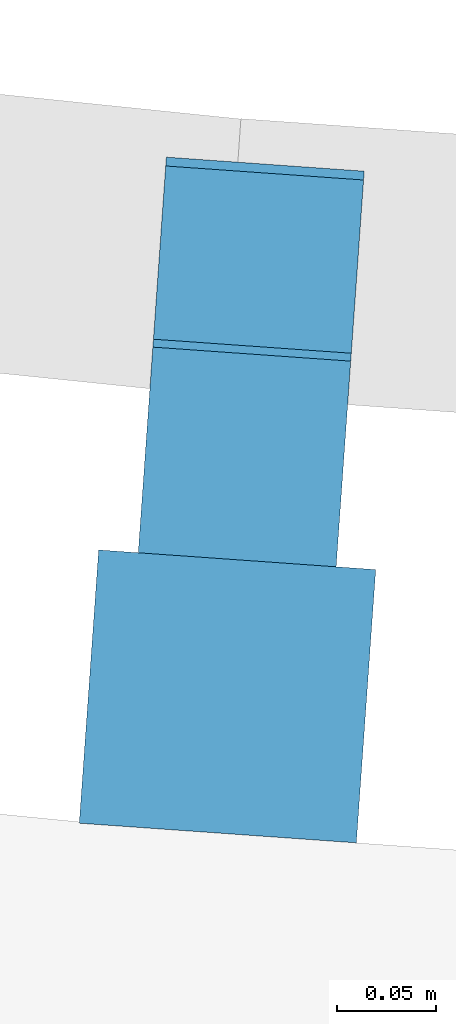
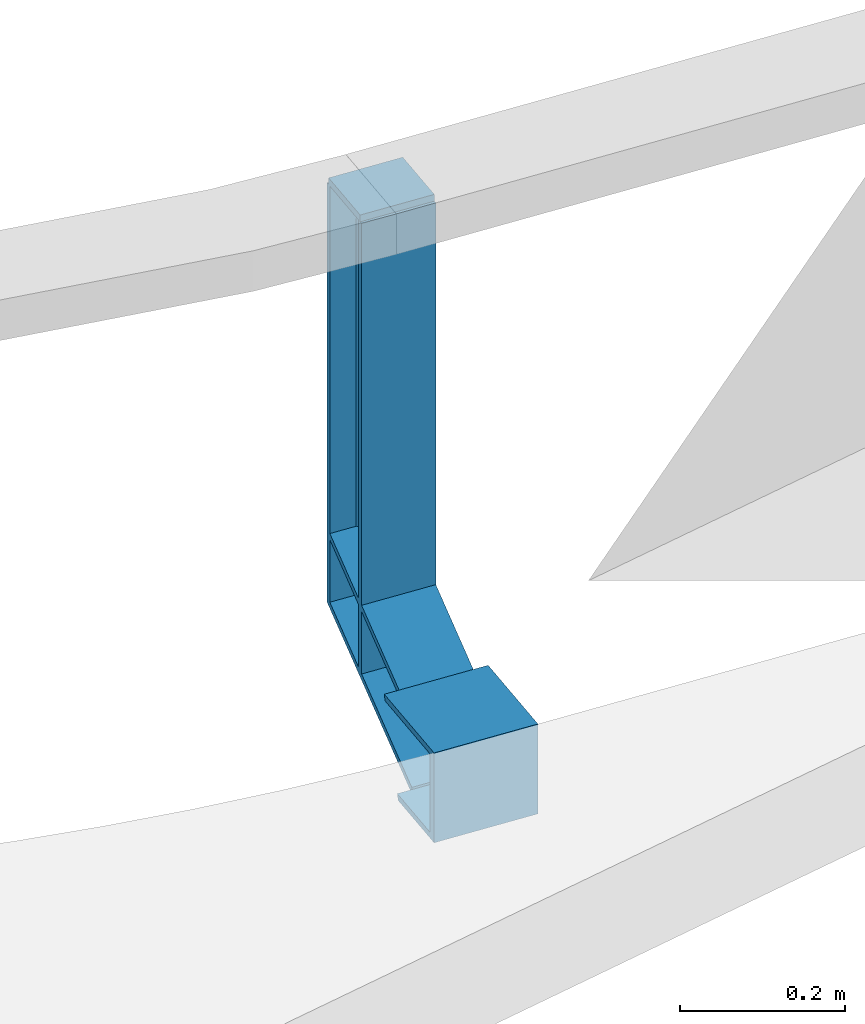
# One storey, part 33 of 68: 1 beam.
"""IFC2X3 building model written with IfcOpenShell, lengths in millimetres."""

from ifc_helpers import new_model, entity, si_unit, converted_unit, derived_unit, direction, frame, origin, place, context, subcontext, project, spatial, faceted_brep, source, transform, mapped, material, type_object, type_shapes, element, save


model = new_model("IFC2X3")

# Units and contexts
model_context = context("Model", 3, precision=0.01, world=origin(), true_north=direction((6.12303176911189e-17, 1.0)))
body_context = subcontext(model_context, "Body", "Model", "MODEL_VIEW")
ifc_project = project(units=[si_unit("LENGTHUNIT", "METRE", prefix="MILLI"), si_unit("AREAUNIT", "SQUARE_METRE", prefix="MILLI"), si_unit("VOLUMEUNIT", "CUBIC_METRE"), converted_unit("PLANEANGLEUNIT", "DEGREE", entity("IfcRatioMeasure", 0.0174532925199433), si_unit("PLANEANGLEUNIT", "RADIAN"), dimensions=[0, 0, 0, 0, 0, 0, 0]), si_unit("MASSUNIT", "GRAM", prefix="KILO"), derived_unit("MASSDENSITYUNIT", [(si_unit("MASSUNIT", "GRAM", prefix="KILO"), 1), (si_unit("LENGTHUNIT", "METRE"), -3)]), derived_unit("MOMENTOFINERTIAUNIT", [(si_unit("LENGTHUNIT", "METRE"), 4)]), si_unit("TIMEUNIT", "SECOND"), si_unit("FREQUENCYUNIT", "HERTZ"), si_unit("THERMODYNAMICTEMPERATUREUNIT", "DEGREE_CELSIUS"), derived_unit("THERMALTRANSMITTANCEUNIT", [(si_unit("MASSUNIT", "GRAM", prefix="KILO"), 1), (si_unit("THERMODYNAMICTEMPERATUREUNIT", "KELVIN"), -1), (si_unit("TIMEUNIT", "SECOND"), -3)]), derived_unit("VOLUMETRICFLOWRATEUNIT", [(si_unit("LENGTHUNIT", "METRE"), 3), (si_unit("TIMEUNIT", "SECOND"), -1)]), si_unit("ELECTRICCURRENTUNIT", "AMPERE"), si_unit("ELECTRICVOLTAGEUNIT", "VOLT"), si_unit("POWERUNIT", "WATT"), si_unit("FORCEUNIT", "NEWTON", prefix="KILO"), si_unit("ILLUMINANCEUNIT", "LUX"), si_unit("LUMINOUSFLUXUNIT", "LUMEN"), si_unit("LUMINOUSINTENSITYUNIT", "CANDELA"), derived_unit("USERDEFINED", [(si_unit("MASSUNIT", "GRAM", prefix="KILO"), -1), (si_unit("LENGTHUNIT", "METRE"), -2), (si_unit("TIMEUNIT", "SECOND"), 3), (si_unit("LUMINOUSFLUXUNIT", "LUMEN"), 1)]), derived_unit("LINEARVELOCITYUNIT", [(si_unit("LENGTHUNIT", "METRE"), 1), (si_unit("TIMEUNIT", "SECOND"), -1)]), si_unit("PRESSUREUNIT", "PASCAL"), derived_unit("USERDEFINED", [(si_unit("LENGTHUNIT", "METRE"), -2), (si_unit("MASSUNIT", "GRAM", prefix="KILO"), 1), (si_unit("TIMEUNIT", "SECOND"), -2)]), derived_unit("LINEARFORCEUNIT", [(si_unit("MASSUNIT", "GRAM", prefix="KILO"), 1), (si_unit("LENGTHUNIT", "METRE"), 1), (si_unit("TIMEUNIT", "SECOND"), -2), (si_unit("LENGTHUNIT", "METRE"), -1)]), derived_unit("PLANARFORCEUNIT", [(si_unit("MASSUNIT", "GRAM", prefix="KILO"), 1), (si_unit("LENGTHUNIT", "METRE"), 1), (si_unit("TIMEUNIT", "SECOND"), -2), (si_unit("LENGTHUNIT", "METRE"), -2)])], contexts=[model_context])

# Site, building, storey
site_placement = place(None, origin())
site = spatial("IfcSite", under=ifc_project, at=site_placement, Name="Theater aan de Parade", CompositionType="ELEMENT")
building_placement = place(site_placement, origin())
building = spatial("IfcBuilding", under=site, at=building_placement, Name="Theater aan de Parade", CompositionType="ELEMENT")
storey_placement = place(building_placement, frame((0.0, 0.0, 8750.0)))
storey = spatial("IfcBuildingStorey", under=building, at=storey_placement, Name="02 tweede verdieping", CompositionType="ELEMENT", Elevation=8750.0)

# Beam
ifc_material = material(Name="00_PBT_MAT_staal_S355")
beam_type = type_object("IfcBeamType", Name="28_PBT_SF_staal_baluster balkon:baluster HEA100", PredefinedType="BEAM", material=ifc_material)
shared_shape = source(origin(), body_context, "Body", "Brep", [
    faceted_brep([(50.0, 43.537813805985, 625.0), (50.0, 43.537813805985, 635.0), (50.0, -44.0, 635.0), (50.0, -44.0, 625.0), (-50.0, 43.537813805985, 625.0), (-50.0, -44.0, 625.0), (-50.0, -44.0, 635.0), (-50.0, 43.537813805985, 635.0)], [[[0, 1, 2, 3]], [[4, 5, 6, 7]], [[3, 5, 4, 0]], [[2, 6, 5, 3]], [[1, 7, 6, 2]], [[0, 4, 7, 1]]]),
    faceted_brep([(70.0, -278.0, -133.0), (70.0, -278.0, 0.0), (70.0, -290.0, 0.0), (70.0, -290.0, -133.0), (-70.0, -278.0, -133.0), (-70.0, -290.0, -133.0), (-70.0, -290.0, 0.0), (-70.0, -278.0, 0.0)], [[[0, 1, 2, 3]], [[4, 5, 6, 7]], [[3, 5, 4, 0]], [[2, 6, 5, 3]], [[1, 7, 6, 2]], [[0, 4, 7, 1]]]),
    faceted_brep([(70.0, -278.0, -133.0), (70.0, -278.0, -124.5), (14.7499999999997, -278.0, -124.5), (11.6441714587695, -278.0, -124.091109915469), (8.74999999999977, -278.0, -122.892304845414), (6.26471862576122, -278.0, -120.985281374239), (4.35769515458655, -278.0, -118.5), (3.15889008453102, -278.0, -115.60582854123), (2.74999999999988, -278.0, -112.5), (2.74999999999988, -278.0, -20.5000000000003), (3.15889008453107, -278.0, -17.39417145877), (4.35769515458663, -278.0, -14.5000000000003), (6.26471862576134, -278.0, -12.0147186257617), (8.74999999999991, -278.0, -10.107695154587), (11.6441714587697, -278.0, -8.90889008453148), (14.7499999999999, -278.0, -8.50000000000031), (70.0, -278.0, -8.50000000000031), (70.0, -278.0, 0.0), (-70.0, -278.0, 0.0), (-70.0, -278.0, -8.50000000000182), (-14.7499999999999, -278.0, -8.50000000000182), (-11.6441714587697, -278.0, -8.90889008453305), (-8.74999999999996, -278.0, -10.1076951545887), (-6.26471862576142, -278.0, -12.0147186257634), (-4.35769515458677, -278.0, -14.500000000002), (-3.15889008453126, -278.0, -17.3941714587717), (-2.75000000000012, -278.0, -20.5000000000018), (-2.75000000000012, -278.0, -112.500000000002), (-3.15889008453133, -278.0, -115.605828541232), (-4.3576951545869, -278.0, -118.500000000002), (-6.26471862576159, -278.0, -120.98528137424), (-8.75000000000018, -278.0, -122.892304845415), (-11.6441714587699, -278.0, -124.091109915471), (-14.7500000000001, -278.0, -124.500000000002), (-70.0, -278.0, -124.500000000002), (-70.0, -278.0, -133.0), (70.0, -154.37480362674, -8.50000000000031), (70.0, -151.923048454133, 0.0), (70.0, -190.285805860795, -133.0), (70.0, -187.834050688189, -124.5), (14.7499999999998, -214.852904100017, -8.50000000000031), (14.7499999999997, -154.37480362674, -8.50000000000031), (-70.0, -154.37480362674, -8.50000000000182), (-14.7500000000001, -154.37480362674, -8.50000000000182), (-14.7500000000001, -214.852905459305, -8.50000000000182), (6.43965673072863, -216.327371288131, -11.8433150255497), (2.74999999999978, -217.521904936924, -20.5000000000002), (12.079748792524, -154.461585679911, -8.8008650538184), (9.5433951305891, -154.717580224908, -9.68837358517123), (5.36802221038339, -155.678018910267, -13.0181223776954), (7.26812237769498, -155.129950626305, -11.1180222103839), (2.74999999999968, -157.83610504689, -20.5000000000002), (3.05086505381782, -157.065893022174, -17.8297487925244), (3.9383735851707, -156.334302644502, -15.2933951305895), (2.74999999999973, -184.372749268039, -112.5), (3.93837358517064, -185.874551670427, -117.706604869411), (3.05086505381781, -185.142961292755, -115.170251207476), (5.36802221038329, -186.530835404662, -119.981877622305), (7.26812237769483, -187.078903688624, -121.881977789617), (9.54339513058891, -187.491274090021, -123.311626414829), (12.0797487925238, -187.747268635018, -124.199134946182), (14.7499999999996, -187.834050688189, -124.5), (-14.7500000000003, -187.83405068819, -124.500000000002), (-70.0, -187.83405068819, -124.500000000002), (-70.0, -190.285805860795, -133.0), (-70.0, -151.923048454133, 0.0), (-9.54339513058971, -187.491274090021, -123.311626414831), (-12.0797487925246, -187.747268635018, -124.199134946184), (-7.2681223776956, -187.078903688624, -121.881977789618), (-5.36802221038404, -186.530835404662, -119.981877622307), (-3.93837358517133, -185.874551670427, -117.706604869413), (-3.05086505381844, -185.142961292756, -115.170251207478), (-2.75000000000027, -184.37274926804, -112.500000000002), (-2.75000000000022, -217.521899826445, -20.500000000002), (-2.75000000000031, -157.83610504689, -20.500000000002), (-6.43965718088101, -216.327373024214, -11.8433145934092), (-3.05086505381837, -157.065893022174, -17.8297487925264), (-3.93837358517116, -156.334302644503, -15.2933951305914), (-7.2681223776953, -155.129950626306, -11.1180222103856), (-5.36802221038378, -155.678018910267, -13.0181223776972), (-12.0797487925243, -154.461585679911, -8.80086505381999), (-9.54339513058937, -154.717580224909, -9.68837358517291)], [[[0, 1, 2, 3, 4, 5, 6, 7, 8, 9, 10, 11, 12, 13, 14, 15, 16, 17, 18, 19, 20, 21, 22, 23, 24, 25, 26, 27, 28, 29, 30, 31, 32, 33, 34, 35]], [[36, 37, 17, 16]], [[38, 39, 1, 0]], [[36, 16, 15, 40, 41]], [[19, 42, 43, 44, 20]], [[13, 45, 14]], [[12, 45, 13]], [[46, 45, 11]], [[47, 41, 40]], [[14, 40, 15]], [[45, 12, 11]], [[48, 47, 40]], [[49, 50, 45]], [[10, 9, 46]], [[40, 45, 48]], [[11, 10, 46]], [[46, 51, 52]], [[53, 46, 52]], [[46, 53, 45]], [[45, 53, 49]], [[45, 50, 48]], [[14, 45, 40]], [[54, 51, 46, 9, 8]], [[7, 6, 55]], [[8, 7, 56]], [[56, 54, 8]], [[57, 55, 6]], [[56, 7, 55]], [[6, 5, 57]], [[58, 5, 4]], [[59, 4, 3]], [[60, 3, 2]], [[59, 58, 4]], [[61, 60, 2]], [[59, 3, 60]], [[5, 58, 57]], [[39, 61, 2, 1]], [[62, 63, 34, 33]], [[38, 0, 35, 64]], [[64, 35, 34, 63]], [[42, 19, 18, 65]], [[32, 31, 66]], [[33, 32, 67]], [[67, 62, 33]], [[68, 66, 31]], [[67, 32, 66]], [[31, 30, 68]], [[69, 30, 29]], [[70, 29, 28]], [[71, 28, 27]], [[70, 69, 29]], [[72, 71, 27]], [[70, 28, 71]], [[30, 69, 68]], [[72, 27, 26, 73, 74]], [[25, 24, 73]], [[24, 23, 75]], [[75, 22, 21]], [[76, 74, 73]], [[75, 23, 22]], [[73, 77, 76]], [[78, 79, 75]], [[44, 80, 81]], [[73, 75, 77]], [[25, 73, 26]], [[21, 44, 75]], [[21, 20, 44]], [[43, 80, 44]], [[44, 81, 75]], [[78, 75, 81]], [[75, 79, 77]], [[73, 24, 75]], [[37, 65, 18, 17]], [[39, 38, 64, 63, 62, 67, 66, 68, 69, 70, 71, 72, 74, 76, 77, 79, 78, 81, 80, 43, 42, 65, 37, 36, 41, 47, 48, 50, 49, 53, 52, 51, 54, 56, 55, 57, 58, 59, 60, 61]]]),
    faceted_brep([(50.0, 48.0, 106.188021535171), (50.0, 48.0, 115.425625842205), (50.0, -151.923048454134, 0.0), (50.0, -155.119944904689, -11.0833333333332), (50.0, 48.0, 4.57437415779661), (50.0, 48.0, 13.8119784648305), (50.0, -187.08890941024, -121.916666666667), (50.0, -190.285805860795, -133.0), (14.4999999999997, -155.119944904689, -11.0833333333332), (14.4999999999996, -56.7511342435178, 45.7099259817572), (14.4999999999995, -4.37557443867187, 75.9489695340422), (14.4999999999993, 48.0, 106.188021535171), (-50.0, -155.119944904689, -11.0833333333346), (-50.0, 48.0, 106.188021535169), (-14.5000000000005, 48.0, 106.188021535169), (-14.5000000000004, -4.37556718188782, 75.9489737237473), (-14.5000000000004, -56.7511343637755, 45.7099259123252), (-14.5000000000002, -155.119944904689, -11.0833333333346), (9.9077988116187, -155.484968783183, -12.348836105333), (6.13940978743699, -85.6560198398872, 25.1051305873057), (12.1589161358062, -155.212086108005, -11.4027780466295), (2.49999999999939, -4.37556820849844, 62.0925666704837), (2.49999999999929, 48.0, 92.3316150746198), (2.80086505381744, 48.0, 95.4149555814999), (6.04197655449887, -10.2229142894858, 68.5459327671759), (2.49999999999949, -55.1641531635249, 32.769763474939), (2.73057663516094, -158.979764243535, -24.4649567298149), (2.49999999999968, -159.915289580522, -27.7083333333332), (2.49999999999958, -107.539721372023, 2.53071507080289), (7.83315720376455, -155.92810620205, -13.8851510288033), (11.8297487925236, 48.0, 105.840612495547), (4.52236465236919, -157.25113882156, -18.4719782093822), (3.41344560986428, -158.0801906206, -21.3462212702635), (5.11802221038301, 48.0, 100.970943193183), (7.01812237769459, 48.0, 103.164989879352), (3.68837358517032, 48.0, 98.3436845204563), (9.29339513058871, 48.0, 104.815805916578), (6.01471862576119, -156.524468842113, -15.9526830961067), (2.49999999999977, -182.293564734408, -105.291666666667), (2.49999999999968, -129.917998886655, -75.052619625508), (2.49999999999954, -56.7511354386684, -32.8097113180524), (2.49999999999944, -4.3755695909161, -2.57066427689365), (2.49999999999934, 48.0, 27.6683849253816), (6.01471862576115, -185.684385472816, -117.047316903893), (6.30956465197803, -103.743785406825, -70.0679088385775), (4.52236465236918, -184.957715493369, -114.528021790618), (7.83315720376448, -186.280748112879, -119.114848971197), (9.90779881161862, -186.723885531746, -120.651163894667), (14.4999999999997, -134.713341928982, -91.677618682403), (12.1589161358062, -186.996768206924, -121.597221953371), (14.4999999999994, -4.37556748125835, -16.4270695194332), (5.87838992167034, -26.389988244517, -24.9186641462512), (14.4999999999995, -69.5444547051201, -54.0523441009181), (5.11802221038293, 48.0, 19.0290568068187), (3.4134456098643, -184.128663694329, -111.653778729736), (2.80086505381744, 48.0, 24.5850444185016), (3.68837358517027, 48.0, 21.6563154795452), (14.4999999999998, -187.08890941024, -121.916666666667), (7.01812237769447, 48.0, 16.8350101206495), (9.29339513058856, 48.0, 15.1841940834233), (2.73057663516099, -183.229090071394, -108.535043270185), (11.8297487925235, 48.0, 14.1593875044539), (14.4999999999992, 48.0, 13.8119784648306), (-50.0, -187.088909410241, -121.916666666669), (-14.5000000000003, -187.088909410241, -121.916666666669), (-14.5000000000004, -134.713341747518, -91.6776185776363), (-14.5000000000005, -69.544456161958, -54.0523449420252), (-14.5000000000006, -4.37556766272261, -16.427069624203), (-14.5000000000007, 48.0, 13.8119784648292), (-50.0, 48.0, 13.8119784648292), (-50.0, -190.285805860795, -133.0), (-50.0, 48.0, 4.57437415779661), (-50.0, -151.923048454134, 0.0), (-50.0, 48.0, 115.425625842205), (-6.30956482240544, -103.743788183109, -70.0679106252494), (-4.52236465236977, -184.95771549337, -114.52802179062), (-3.41344560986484, -184.128663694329, -111.653778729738), (-2.50000000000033, -129.917995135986, -75.0526174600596), (-5.87838988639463, -26.3899865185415, -24.9186631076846), (-7.01812237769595, 48.0, 16.835010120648), (-9.29339513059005, 48.0, 15.1841940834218), (-6.01471862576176, -185.684385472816, -117.047316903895), (-7.8331572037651, -186.28074811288, -119.114848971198), (-11.829748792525, 48.0, 14.1593875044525), (-2.50000000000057, -4.37556959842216, -2.57066428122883), (-5.11802221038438, 48.0, 19.0290568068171), (-2.7305766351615, -183.229090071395, -108.535043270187), (-2.50000000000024, -182.293564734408, -105.291666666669), (-9.90779881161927, -186.723885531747, -120.651163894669), (-12.1589161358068, -186.996768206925, -121.597221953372), (-2.50000000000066, 48.0, 27.6683849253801), (-2.80086505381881, 48.0, 24.5850444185), (-2.50000000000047, -56.7511295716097, -32.809707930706), (-3.68837358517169, 48.0, 21.6563154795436), (-2.50000000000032, -159.915289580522, -27.708333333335), (-2.50000000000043, -107.539724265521, 2.53071340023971), (-2.50000000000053, -55.1641511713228, 32.7697646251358), (-2.50000000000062, -4.37556531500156, 62.0925683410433), (-2.50000000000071, 48.0, 92.3316150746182), (-2.73057663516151, -158.979764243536, -24.464956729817), (-11.8297487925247, 48.0, 105.840612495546), (-7.83315720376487, -155.92810620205, -13.885151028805), (-6.13940988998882, -85.6560228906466, 25.1051289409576), (-6.01471862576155, -156.524468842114, -15.9526830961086), (-6.04197656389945, -10.2229155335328, 68.5459320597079), (-7.0181223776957, 48.0, 103.16498987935), (-5.11802221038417, 48.0, 100.970943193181), (-9.90779881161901, -155.484968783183, -12.3488361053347), (-4.52236465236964, -157.25113882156, -18.4719782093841), (-3.68837358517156, 48.0, 98.3436845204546), (-2.80086505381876, 48.0, 95.4149555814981), (-12.1589161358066, -155.212086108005, -11.402778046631), (-3.41344560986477, -158.080190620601, -21.3462212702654), (-9.29339513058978, 48.0, 104.815805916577)], [[[0, 1, 2, 3]], [[4, 5, 6, 7]], [[0, 3, 8, 9, 10, 11]], [[12, 13, 14, 15, 16, 17]], [[18, 19, 20]], [[21, 22, 23]], [[24, 25, 21]], [[26, 27, 28]], [[19, 18, 29]], [[25, 19, 28]], [[9, 24, 10]], [[20, 9, 8]], [[19, 9, 20]], [[19, 24, 9]], [[25, 24, 19]], [[30, 11, 10]], [[28, 31, 32]], [[24, 33, 34]], [[33, 24, 35]], [[35, 24, 21]], [[36, 24, 34]], [[28, 32, 26]], [[31, 19, 37]], [[30, 10, 36]], [[31, 28, 19]], [[35, 21, 23]], [[36, 10, 24]], [[37, 19, 29]], [[27, 38, 39, 40, 41, 42, 22, 21, 25, 28]], [[43, 44, 45]], [[46, 47, 48]], [[48, 47, 49]], [[50, 51, 52]], [[53, 41, 51]], [[54, 45, 44]], [[55, 42, 41]], [[55, 41, 56]], [[49, 57, 48]], [[40, 39, 44]], [[58, 53, 51]], [[43, 46, 44]], [[51, 59, 58]], [[39, 54, 44]], [[54, 39, 60]], [[40, 44, 51]], [[61, 50, 62]], [[41, 40, 51]], [[44, 48, 52]], [[44, 46, 48]], [[56, 41, 53]], [[39, 38, 60]], [[59, 50, 61]], [[51, 44, 52]], [[51, 50, 59]], [[5, 62, 50, 52, 48, 57, 6]], [[63, 64, 65, 66, 67, 68, 69]], [[4, 7, 70, 71]], [[71, 70, 63, 69]], [[13, 12, 72, 73]], [[66, 65, 74]], [[75, 76, 74]], [[77, 74, 76]], [[78, 79, 80]], [[81, 74, 82]], [[83, 67, 80]], [[78, 84, 85]], [[86, 87, 77]], [[88, 82, 65]], [[88, 65, 89]], [[84, 90, 91]], [[66, 74, 78]], [[78, 80, 67]], [[92, 78, 74]], [[83, 68, 67]], [[84, 78, 92]], [[93, 84, 91]], [[93, 85, 84]], [[74, 65, 82]], [[78, 85, 79]], [[64, 89, 65]], [[74, 81, 75]], [[74, 77, 92]], [[86, 77, 76]], [[66, 78, 67]], [[94, 95, 96, 97, 98, 90, 84, 92, 77, 87]], [[94, 99, 95]], [[15, 14, 100]], [[101, 102, 103]], [[104, 105, 106]], [[107, 102, 101]], [[103, 102, 108]], [[16, 104, 102]], [[104, 96, 102]], [[102, 95, 108]], [[109, 110, 97]], [[107, 111, 102]], [[96, 104, 97]], [[109, 104, 106]], [[112, 95, 99]], [[16, 15, 104]], [[95, 112, 108]], [[113, 15, 100]], [[16, 102, 111]], [[97, 104, 109]], [[102, 96, 95]], [[113, 104, 15]], [[111, 17, 16]], [[105, 104, 113]], [[110, 98, 97]], [[1, 73, 72, 2]], [[5, 4, 71, 69, 68, 83, 80, 79, 85, 93, 91, 90, 98, 110, 109, 106, 105, 113, 100, 14, 13, 73, 1, 0, 11, 30, 36, 34, 33, 35, 23, 22, 42, 55, 56, 53, 58, 59, 61, 62]], [[3, 2, 72, 12, 17, 111, 107, 101, 103, 108, 112, 99, 94, 87, 86, 76, 75, 81, 82, 88, 89, 64, 63, 70, 7, 6, 57, 49, 47, 46, 43, 45, 54, 60, 38, 27, 26, 32, 31, 37, 29, 18, 20, 8]]]),
    faceted_brep([(50.0, -48.0, 625.0), (50.0, -40.0, 625.0), (14.4999999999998, -40.0, 625.0), (11.3941714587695, -39.5911099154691, 625.0), (8.4999999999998, -38.3923048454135, 625.0), (6.01471862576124, -36.4852813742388, 625.0), (4.10769515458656, -34.0, 625.0), (2.90889008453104, -31.1058285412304, 625.0), (2.49999999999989, -28.0, 625.0), (2.49999999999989, 28.0, 625.0), (2.90889008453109, 31.10582854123, 625.0), (4.10769515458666, 34.0, 625.0), (6.01471862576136, 36.4852813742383, 625.0), (8.49999999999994, 38.392304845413, 625.0), (11.3941714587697, 39.5911099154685, 625.0), (14.4999999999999, 40.0, 625.0), (50.0, 40.0, 625.0), (50.0, 48.0, 625.0), (-50.0, 48.0, 625.0), (-50.0, 40.0, 625.0), (-14.4999999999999, 40.0, 625.0), (-11.3941714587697, 39.5911099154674, 625.0), (-8.49999999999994, 38.3923048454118, 625.0), (-6.01471862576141, 36.4852813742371, 625.0), (-4.10769515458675, 34.0, 625.0), (-2.90889008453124, 31.1058285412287, 625.0), (-2.50000000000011, 28.0, 625.0), (-2.5000000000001, -28.0, 625.0), (-2.90889008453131, -31.1058285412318, 625.0), (-4.10769515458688, -34.0, 625.0), (-6.01471862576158, -36.4852813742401, 625.0), (-8.50000000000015, -38.3923048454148, 625.0), (-11.3941714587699, -39.5911099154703, 625.0), (-14.5000000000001, -40.0, 625.0), (-50.0, -40.0, 625.0), (-50.0, -48.0, 625.0), (50.0, 48.0, 165.0), (50.0, 40.0, -0.0444279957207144), (50.0, 48.0, 4.57437415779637), (50.0, -40.0, -46.2324495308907), (50.0, -48.0, -50.8512516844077), (14.4999999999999, 40.0, 564.521909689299), (14.4999999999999, 40.0, 468.738898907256), (14.4999999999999, 40.0, 390.608336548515), (14.4999999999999, 40.0, 312.477797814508), (14.4999999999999, 40.0, 234.347235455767), (14.4999999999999, 40.0, 156.216673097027), (14.4999999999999, 40.0, 60.4336623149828), (14.4999999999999, 40.0, -0.0444279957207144), (-50.0, 40.0, -0.0444279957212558), (-14.4999999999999, 40.0, -0.0444279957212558), (-14.4999999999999, 40.0, 60.4336769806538), (-14.4999999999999, 40.0, 156.21667900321), (-14.5, 40.0, 234.34724221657), (-14.5, 40.0, 312.477786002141), (-14.5, 40.0, 390.608329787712), (-14.5, 40.0, 468.738893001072), (-14.5, 40.0, 564.521895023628), (6.01471822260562, 36.4852809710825, 534.282851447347), (2.49999999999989, 28.0, 504.043808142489), (2.49999999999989, 28.0, 429.969876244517), (6.38111782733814, 36.8365011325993, 422.595542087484), (9.29339513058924, 38.8116264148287, -0.730535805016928), (5.87838991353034, 36.3467262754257, 83.7445110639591), (7.01812237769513, 37.3819777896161, -1.55594382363), (2.49999999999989, 28.0, 564.521899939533), (5.11802221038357, 35.4818776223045, -2.65296716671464), (11.8297487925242, 39.6991349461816, -0.21813251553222), (6.03175640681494, 36.5022850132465, 273.412504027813), (5.33717277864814, 35.7487158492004, 157.721305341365), (2.49999999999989, 28.0, 113.983560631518), (2.49999999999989, 28.0, 53.5054688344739), (2.49999999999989, 28.0, -6.97263122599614), (2.80086505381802, 30.6702512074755, -5.43096097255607), (6.45584074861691, 36.9045775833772, 351.543056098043), (3.68837358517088, 33.2066048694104, -3.96659650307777), (2.49999999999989, 28.0, 234.939752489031), (2.49999999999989, 28.0, 174.461652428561), (2.49999999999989, 28.0, 332.454810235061), (2.49999999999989, -28.0, 564.521918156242), (2.49999999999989, -28.0, 504.043820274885), (2.49999999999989, -28.0, 443.565722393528), (2.49999999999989, -28.0, 383.08762451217), (2.49999999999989, -28.0, 277.489656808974), (2.49999999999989, -28.0, 171.891689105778), (2.49999999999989, -28.0, 81.6519494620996), (2.49999999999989, -28.0, 21.1738515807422), (2.49999999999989, -28.0, -39.3042463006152), (14.4999999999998, -40.0, 564.521903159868), (14.4999999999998, -40.0, 457.191883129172), (6.01471890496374, -36.4852816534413, 534.282850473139), (14.4999999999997, -40.0, 14.24565628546), (5.87838987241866, -36.3467262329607, 51.4128968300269), (14.4999999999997, -40.0, 74.723753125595), (14.4999999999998, -40.0, 182.053764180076), (7.12980766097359, -37.469966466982, 128.3887480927), (14.4999999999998, -40.0, 373.287829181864), (14.4999999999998, -40.0, 289.383775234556), (5.68142979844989, -36.138354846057, 331.33579860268), (6.48410362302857, -36.9300282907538, 264.631830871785), (5.11802221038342, -35.481877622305, -43.6239103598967), (3.68837358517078, -33.2066048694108, -42.3102810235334), (14.4999999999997, -40.0, -46.2324495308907), (11.8297487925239, -39.6991349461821, -46.058745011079), (9.29339513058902, -38.8116264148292, -45.5463417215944), (7.01812237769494, -37.3819777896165, -44.7209337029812), (5.85986411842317, -36.3275477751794, 197.731198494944), (5.34384824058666, -35.7566026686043, 460.437179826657), (2.80086505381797, -30.6702512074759, -40.8459165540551), (6.59968170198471, -37.0324399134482, 396.193688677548), (-50.0, -40.0, -46.2324495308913), (-14.5000000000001, -40.0, 564.521911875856), (-14.5000000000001, -40.0, 457.191887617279), (-14.5000000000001, -40.0, 373.287826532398), (-14.5000000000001, -40.0, 289.383775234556), (-14.5000000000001, -40.0, 205.479723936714), (-14.5000000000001, -40.0, 121.575662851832), (-14.5000000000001, -40.0, 14.2456483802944), (-14.5000000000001, -40.0, -46.2324495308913), (-50.0, -48.0, -50.8512516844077), (-50.0, 48.0, 165.0), (-50.0, 48.0, 4.57437415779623), (-6.01471845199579, -36.4852812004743, 534.282853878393), (-2.5000000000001, -28.0, 504.043796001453), (-5.34384807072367, -35.7566024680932, 460.437182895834), (-2.5000000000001, -28.0, 564.521907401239), (-9.29339513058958, -38.8116264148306, -45.5463417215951), (-7.01812237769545, -37.3819777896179, -44.720933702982), (-6.37223200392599, -36.8283286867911, 262.824412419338), (-5.68142973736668, -36.1383547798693, 331.33579885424), (-6.59968165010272, -37.0324398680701, 396.193689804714), (-2.5000000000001, -28.0, 383.087610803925), (-11.8297487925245, -39.6991349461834, -46.0587450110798), (-5.11802221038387, -35.4818776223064, -43.6239103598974), (-6.18948395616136, -36.6565191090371, 51.4128959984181), (-3.68837358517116, -33.2066048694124, -42.3102810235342), (-2.5000000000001, -28.0, 21.1738462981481), (-2.80086505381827, -30.6702512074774, -40.8459165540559), (-5.35181665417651, -35.7659990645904, 125.002033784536), (-2.5000000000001, -28.0, 81.6519388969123), (-2.5000000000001, -28.0, -39.304246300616), (-2.5000000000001, -28.0, 277.489641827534), (-2.5000000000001, -28.0, 443.565703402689), (-2.5000000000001, -28.0, 171.891672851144), (-5.88018165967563, -36.3485766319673, 194.135386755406), (-2.50000000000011, 28.0, 564.521898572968), (-2.50000000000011, 28.0, 504.043797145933), (-2.50000000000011, 28.0, 429.969878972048), (-2.50000000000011, 28.0, 332.454826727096), (-2.50000000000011, 28.0, 234.939757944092), (-2.50000000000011, 28.0, 174.461656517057), (-2.50000000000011, 28.0, 113.983555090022), (-2.50000000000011, 28.0, 53.5054536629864), (-2.50000000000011, 28.0, -6.97263122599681), (-5.87838991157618, 36.3467262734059, 83.7445122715), (-9.29339513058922, 38.8116264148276, -0.730535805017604), (-5.33717271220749, 35.7487157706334, 157.721307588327), (-6.01471873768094, 36.4852814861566, 534.282853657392), (-6.38111797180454, 36.8365012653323, 422.595548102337), (-6.45584072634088, 36.9045775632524, 351.543059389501), (-3.688373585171, 33.2066048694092, -3.96659650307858), (-2.80086505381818, 30.6702512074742, -5.43096097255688), (-7.01812237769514, 37.3819777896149, -1.55594382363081), (-5.11802221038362, 35.4818776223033, -2.65296716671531), (-6.03175635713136, 36.5022849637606, 273.412506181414), (-11.8297487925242, 39.6991349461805, -0.218132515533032)], [[[0, 1, 2, 3, 4, 5, 6, 7, 8, 9, 10, 11, 12, 13, 14, 15, 16, 17, 18, 19, 20, 21, 22, 23, 24, 25, 26, 27, 28, 29, 30, 31, 32, 33, 34, 35]], [[36, 17, 16, 37, 38]], [[39, 1, 0, 40]], [[37, 16, 15, 41, 42, 43, 44, 45, 46, 47, 48]], [[19, 49, 50, 51, 52, 53, 54, 55, 56, 57, 20]], [[13, 12, 58]], [[11, 58, 12]], [[58, 42, 41]], [[59, 60, 61]], [[62, 63, 64]], [[65, 11, 10]], [[66, 64, 63]], [[67, 48, 47]], [[45, 68, 69]], [[69, 70, 63]], [[65, 59, 58]], [[46, 63, 47]], [[63, 46, 69]], [[67, 47, 62]], [[41, 15, 14]], [[71, 72, 73]], [[58, 41, 13]], [[44, 74, 68]], [[43, 74, 44]], [[58, 11, 65]], [[13, 41, 14]], [[75, 71, 73]], [[47, 63, 62]], [[71, 63, 70]], [[75, 66, 71]], [[59, 61, 58]], [[63, 71, 66]], [[10, 9, 65]], [[44, 68, 45]], [[69, 76, 77, 70]], [[69, 46, 45]], [[68, 78, 76]], [[74, 60, 78]], [[69, 68, 76]], [[74, 43, 61]], [[60, 74, 61]], [[68, 74, 78]], [[43, 42, 61]], [[58, 61, 42]], [[8, 79, 80, 81, 82, 83, 84, 85, 86, 87, 72, 71, 70, 77, 76, 78, 60, 59, 65, 9]], [[3, 88, 4]], [[88, 89, 90]], [[91, 92, 93]], [[4, 90, 5]], [[92, 86, 85]], [[94, 93, 95]], [[5, 90, 6]], [[96, 97, 98]], [[99, 98, 97]], [[92, 100, 101]], [[90, 80, 79]], [[6, 79, 7]], [[86, 92, 101]], [[91, 102, 103]], [[104, 91, 103]], [[90, 79, 6]], [[92, 105, 100]], [[104, 105, 91]], [[99, 94, 106]], [[90, 4, 88]], [[80, 90, 107]], [[3, 2, 88]], [[101, 108, 86]], [[108, 87, 86]], [[92, 91, 105]], [[79, 8, 7]], [[94, 95, 106]], [[85, 84, 95]], [[107, 90, 89]], [[85, 95, 92]], [[92, 95, 93]], [[106, 95, 84]], [[89, 96, 109]], [[109, 81, 107]], [[81, 109, 82]], [[96, 98, 109]], [[83, 82, 98]], [[84, 83, 106]], [[83, 98, 99]], [[94, 99, 97]], [[83, 99, 106]], [[82, 109, 98]], [[81, 80, 107]], [[89, 109, 107]], [[1, 39, 102, 91, 93, 94, 97, 96, 89, 88, 2]], [[110, 34, 33, 111, 112, 113, 114, 115, 116, 117, 118]], [[119, 40, 0, 35]], [[110, 119, 35, 34]], [[120, 121, 49, 19, 18]], [[122, 31, 30]], [[122, 111, 31]], [[122, 123, 124]], [[122, 125, 123]], [[126, 117, 127]], [[111, 33, 32]], [[31, 111, 32]], [[112, 122, 124]], [[128, 114, 129]], [[130, 131, 129]], [[132, 118, 117]], [[133, 127, 134]], [[29, 122, 30]], [[117, 116, 134]], [[135, 133, 134]], [[135, 136, 137]], [[122, 112, 111]], [[134, 136, 135]], [[134, 138, 139]], [[136, 134, 139]], [[29, 125, 122]], [[140, 137, 136]], [[132, 117, 126]], [[28, 27, 125]], [[134, 127, 117]], [[125, 29, 28]], [[138, 134, 116]], [[131, 141, 129]], [[124, 123, 142]], [[130, 112, 124]], [[113, 129, 114]], [[130, 129, 113]], [[143, 139, 138]], [[116, 115, 144]], [[144, 138, 116]], [[138, 144, 143]], [[128, 141, 144]], [[128, 115, 114]], [[141, 143, 144]], [[141, 128, 129]], [[115, 128, 144]], [[112, 130, 113]], [[130, 142, 131]], [[130, 124, 142]], [[27, 26, 145, 146, 147, 148, 149, 150, 151, 152, 153, 140, 136, 139, 143, 141, 131, 142, 123, 125]], [[22, 21, 57]], [[154, 51, 155]], [[154, 151, 156]], [[146, 145, 157]], [[23, 157, 24]], [[23, 22, 157]], [[158, 55, 159]], [[57, 56, 157]], [[152, 160, 161]], [[52, 154, 156]], [[21, 20, 57]], [[24, 145, 25]], [[25, 145, 26]], [[162, 163, 154]], [[158, 159, 147]], [[157, 145, 24]], [[161, 153, 152]], [[154, 155, 162]], [[152, 151, 154]], [[154, 163, 152]], [[148, 159, 164]], [[51, 50, 165]], [[51, 154, 52]], [[157, 22, 57]], [[152, 163, 160]], [[155, 51, 165]], [[157, 56, 158]], [[157, 158, 146]], [[156, 151, 150, 149]], [[164, 156, 149]], [[164, 54, 53]], [[53, 52, 156]], [[156, 164, 53]], [[54, 159, 55]], [[148, 164, 149]], [[164, 159, 54]], [[147, 159, 148]], [[158, 147, 146]], [[56, 55, 158]], [[120, 18, 17, 36, 38, 121]], [[39, 40, 119, 110, 118, 132, 126, 127, 133, 135, 137, 140, 153, 161, 160, 163, 162, 155, 165, 50, 49, 121, 38, 37, 48, 67, 62, 64, 66, 75, 73, 72, 87, 108, 101, 100, 105, 104, 103, 102]]]),
])
type_shapes(beam_type, [shared_shape])
beam_placement = place(storey_placement, frame((57667.6567583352, 22590.6616228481, -2040.0), z_axis=(0.0, 0.0, 1.0), x_axis=(0.997491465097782, -0.0707868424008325, 0.0)))
element("IfcBeam", 1, at=beam_placement, inside=storey, type_object=beam_type, material=ifc_material, Name="28_PBT_SF_staal_baluster balkon:baluster HEA100", ObjectType="28_PBT_SF_staal_baluster balkon:baluster HEA100", context=body_context, shape_type="MappedRepresentation", body=[
    mapped(shared_shape, transform((0.0, 0.0, 0.0), scale=1.0)),
])

save(model, "model.ifc")
